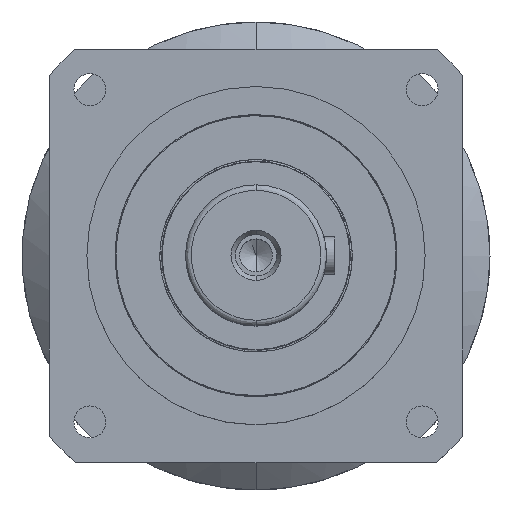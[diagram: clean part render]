
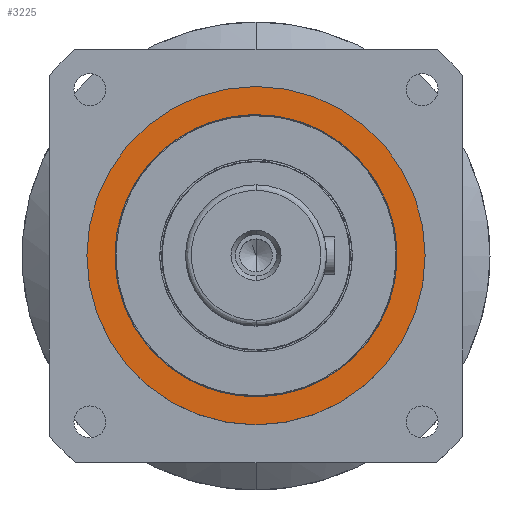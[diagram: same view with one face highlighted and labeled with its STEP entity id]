
A CAD part, top view. The second image highlights one B-rep face of the part: STEP entity #3225.
In plain terms, the highlighted planar face has unit normal (0, 0, 1) as drawn and (0, 0, -1) by its records, which use the part's own axes.
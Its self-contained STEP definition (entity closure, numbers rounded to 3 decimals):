
#1247 = CIRCLE ( 'NONE', #37698, 75. ) ;
#2603 = ORIENTED_EDGE ( 'NONE', *, *, #34943, .F. ) ;
#2881 = CARTESIAN_POINT ( 'NONE',  ( 75., 0., -124. ) ) ;
#3215 = EDGE_CURVE ( 'NONE', #20965, #36682, #1247, .T. ) ;
#3225 = ADVANCED_FACE ( 'NONE', ( #33832, #17496 ), #36881, .F. ) ;
#3631 = CARTESIAN_POINT ( 'NONE',  ( 0., 0., -124. ) ) ;
#3781 = EDGE_LOOP ( 'NONE', ( #19377, #2603 ) ) ;
#4561 = CARTESIAN_POINT ( 'NONE',  ( 0., 0., -124. ) ) ;
#4774 = CIRCLE ( 'NONE', #17606, 90. ) ;
#6008 = CARTESIAN_POINT ( 'NONE',  ( 0., 0., -124. ) ) ;
#6888 = DIRECTION ( 'NONE',  ( 0., 1., 0. ) ) ;
#8484 = AXIS2_PLACEMENT_3D ( 'NONE', #2881, #32907, #27538 ) ;
#9239 = DIRECTION ( 'NONE',  ( 0., 1., 0. ) ) ;
#9725 = ORIENTED_EDGE ( 'NONE', *, *, #3215, .F. ) ;
#10462 = CARTESIAN_POINT ( 'NONE',  ( 0., 75., -124. ) ) ;
#13684 = EDGE_LOOP ( 'NONE', ( #9725, #36258 ) ) ;
#15798 = CARTESIAN_POINT ( 'NONE',  ( 0., 90., -124. ) ) ;
#16585 = CARTESIAN_POINT ( 'NONE',  ( 0., -90., -124. ) ) ;
#17496 = FACE_BOUND ( 'NONE', #13684, .T. ) ;
#17606 = AXIS2_PLACEMENT_3D ( 'NONE', #6008, #28800, #9239 ) ;
#18104 = CARTESIAN_POINT ( 'NONE',  ( 0., 0., -124. ) ) ;
#18733 = CARTESIAN_POINT ( 'NONE',  ( 0., -75., -124. ) ) ;
#19377 = ORIENTED_EDGE ( 'NONE', *, *, #34577, .F. ) ;
#20576 = DIRECTION ( 'NONE',  ( 0., 0., -1. ) ) ;
#20965 = VERTEX_POINT ( 'NONE', #10462 ) ;
#21383 = DIRECTION ( 'NONE',  ( 0., 1., 0. ) ) ;
#24504 = EDGE_CURVE ( 'NONE', #36682, #20965, #28676, .T. ) ;
#25162 = VERTEX_POINT ( 'NONE', #16585 ) ;
#26402 = DIRECTION ( 'NONE',  ( 0., 0., 1. ) ) ;
#27538 = DIRECTION ( 'NONE',  ( 0., -1., 0. ) ) ;
#28676 = CIRCLE ( 'NONE', #30818, 75. ) ;
#28800 = DIRECTION ( 'NONE',  ( 0., 0., 1. ) ) ;
#30818 = AXIS2_PLACEMENT_3D ( 'NONE', #18104, #40833, #21383 ) ;
#31571 = AXIS2_PLACEMENT_3D ( 'NONE', #3631, #26402, #6888 ) ;
#32022 = VERTEX_POINT ( 'NONE', #15798 ) ;
#32907 = DIRECTION ( 'NONE',  ( 0., 0., 1. ) ) ;
#33832 = FACE_OUTER_BOUND ( 'NONE', #3781, .T. ) ;
#33996 = DIRECTION ( 'NONE',  ( 0., 1., 0. ) ) ;
#34577 = EDGE_CURVE ( 'NONE', #32022, #25162, #36310, .T. ) ;
#34943 = EDGE_CURVE ( 'NONE', #25162, #32022, #4774, .T. ) ;
#36258 = ORIENTED_EDGE ( 'NONE', *, *, #24504, .F. ) ;
#36310 = CIRCLE ( 'NONE', #31571, 90. ) ;
#36682 = VERTEX_POINT ( 'NONE', #18733 ) ;
#36881 = PLANE ( 'NONE',  #8484 ) ;
#37698 = AXIS2_PLACEMENT_3D ( 'NONE', #4561, #20576, #33996 ) ;
#40833 = DIRECTION ( 'NONE',  ( 0., 0., -1. ) ) ;
